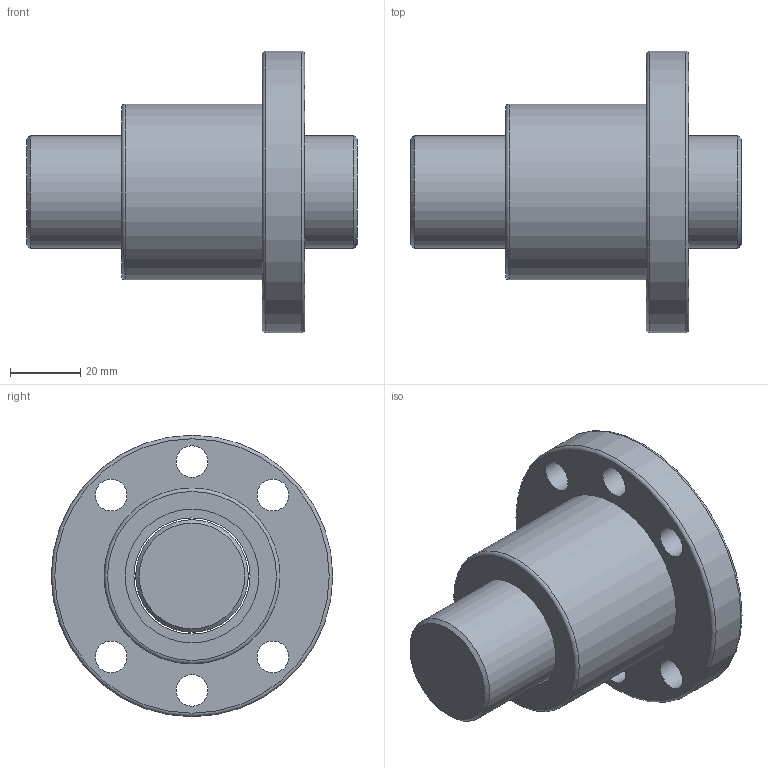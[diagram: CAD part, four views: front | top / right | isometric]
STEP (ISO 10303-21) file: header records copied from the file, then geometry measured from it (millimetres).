
FILE_DESCRIPTION(/* description */ (''),/* implementation_level */ '2;1');
FILE_NAME(/* name */ 'SFU3205',/* time_stamp */ '2007-10-26T13:29:48+08:00',/* author */ (''),/* organization */ (''),/* preprocessor_version */ 'ST-DEVELOPER v9',/* originating_system */ 'EDS PLM SOLUTIONS - UNIGRAPHICS NX 1.0',/* authorisation */ '');
FILE_SCHEMA (('CONFIG_CONTROL_DESIGN'));
Length unit declared in the file: millimetre
Products named in the file (1): FANNDA0400i7
Bounding box: 94 x 80 x 80 mm (x, y, z)
Volume: 165162.6 mm3; surface area: 38461.3 mm2
Topology: 4 solids, 4 shells, 32 faces, 58 edges, 37 vertices
Faces by surface type: cylinder 16, plane 11, torus 3, cone 2
Full cylindrical faces by diameter (mm): 9 x6, 32 x1, 33 x3, 38 x4, 50 x1, 80 x1
Entity records: 810 total; most frequent: DIRECTION 140, CARTESIAN_POINT 107, EDGE_LOOP 74, ORIENTED_EDGE 74, AXIS2_PLACEMENT_3D 70, FACE_BOUND 61, VERTEX_POINT 37, EDGE_CURVE 37
